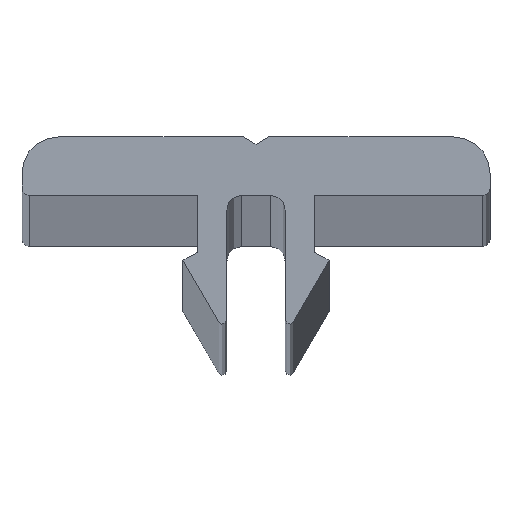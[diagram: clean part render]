
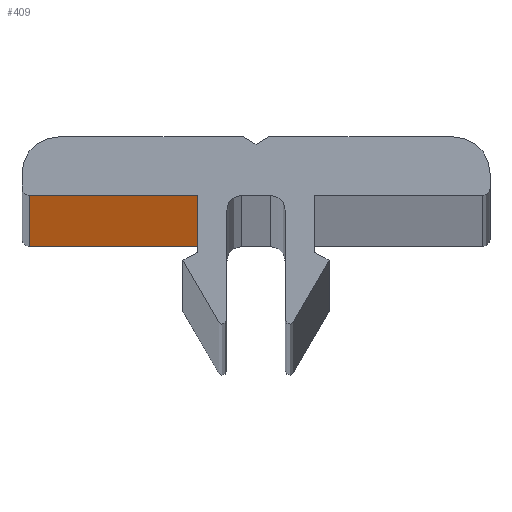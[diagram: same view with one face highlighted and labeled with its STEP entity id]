
A CAD part, top view. The second image highlights one B-rep face of the part: STEP entity #409.
In plain terms, the highlighted planar face has unit normal (0, -1, 0).
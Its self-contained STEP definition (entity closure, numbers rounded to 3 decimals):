
#4 = VERTEX_POINT ( 'NONE', #572 ) ;
#28 = VERTEX_POINT ( 'NONE', #217 ) ;
#33 = ORIENTED_EDGE ( 'NONE', *, *, #558, .T. ) ;
#62 = DIRECTION ( 'NONE',  ( 0., -1., 0. ) ) ;
#92 = ORIENTED_EDGE ( 'NONE', *, *, #276, .F. ) ;
#137 = LINE ( 'NONE', #719, #694 ) ;
#140 = VECTOR ( 'NONE', #152, 1000. ) ;
#144 = FACE_OUTER_BOUND ( 'NONE', #335, .T. ) ;
#148 = CARTESIAN_POINT ( 'NONE',  ( -4., 0., 0. ) ) ;
#152 = DIRECTION ( 'NONE',  ( 0., 0., -1. ) ) ;
#182 = LINE ( 'NONE', #607, #469 ) ;
#194 = PLANE ( 'NONE',  #914 ) ;
#217 = CARTESIAN_POINT ( 'NONE',  ( -15.5, 0., 0. ) ) ;
#221 = CARTESIAN_POINT ( 'NONE',  ( -4., 0., 0. ) ) ;
#276 = EDGE_CURVE ( 'NONE', #4, #662, #871, .T. ) ;
#329 = DIRECTION ( 'NONE',  ( 0., 0., -1. ) ) ;
#335 = EDGE_LOOP ( 'NONE', ( #792, #92, #508, #33 ) ) ;
#394 = EDGE_CURVE ( 'NONE', #28, #662, #137, .T. ) ;
#409 = ADVANCED_FACE ( 'NONE', ( #144 ), #194, .T. ) ;
#430 = CARTESIAN_POINT ( 'NONE',  ( -15.5, 0., 2000. ) ) ;
#469 = VECTOR ( 'NONE', #329, 1000. ) ;
#472 = EDGE_CURVE ( 'NONE', #599, #4, #856, .T. ) ;
#508 = ORIENTED_EDGE ( 'NONE', *, *, #472, .F. ) ;
#557 = DIRECTION ( 'NONE',  ( 1., 0., 0. ) ) ;
#558 = EDGE_CURVE ( 'NONE', #599, #28, #182, .T. ) ;
#572 = CARTESIAN_POINT ( 'NONE',  ( -4., 0., 2000. ) ) ;
#573 = CARTESIAN_POINT ( 'NONE',  ( -15.5, 0., 2000. ) ) ;
#599 = VERTEX_POINT ( 'NONE', #573 ) ;
#607 = CARTESIAN_POINT ( 'NONE',  ( -15.5, 0., 0. ) ) ;
#654 = DIRECTION ( 'NONE',  ( 0., 0., -1. ) ) ;
#662 = VERTEX_POINT ( 'NONE', #148 ) ;
#694 = VECTOR ( 'NONE', #728, 1000. ) ;
#719 = CARTESIAN_POINT ( 'NONE',  ( 0., 0., 0. ) ) ;
#728 = DIRECTION ( 'NONE',  ( 1., 0., 0. ) ) ;
#753 = VECTOR ( 'NONE', #557, 1000. ) ;
#785 = CARTESIAN_POINT ( 'NONE',  ( -4., 0., 0. ) ) ;
#792 = ORIENTED_EDGE ( 'NONE', *, *, #394, .T. ) ;
#856 = LINE ( 'NONE', #430, #753 ) ;
#871 = LINE ( 'NONE', #221, #140 ) ;
#914 = AXIS2_PLACEMENT_3D ( 'NONE', #785, #62, #654 ) ;
